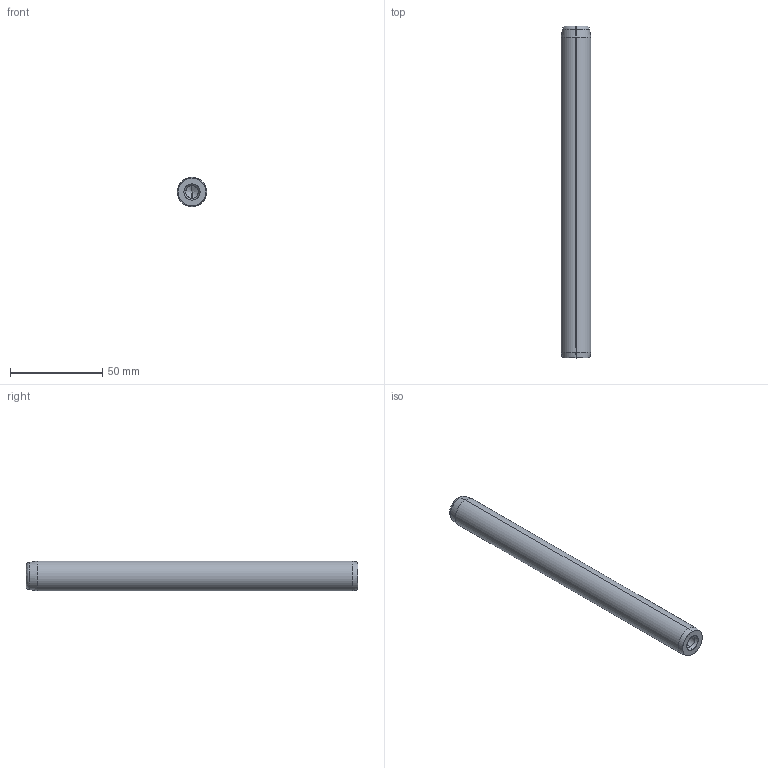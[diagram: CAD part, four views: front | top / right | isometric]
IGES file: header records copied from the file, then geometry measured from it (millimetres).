
Start section: SolidWorks IGES file using analytic representation for surfaces
Global section: file name: C:\Users\Dell\Desktop\deltakont\hatalýlar\D14\Ø16\D14_16180.IGS; native system: SolidWorks 2010; preprocessor: SolidWorks 2010; author: Dell; date: 111225.003809; units: metre
Bounding box: 16 x 180 x 16 mm (x, y, z)
Surface area: 10444 mm2 (no closed solid volume)
Topology: 0 solids, 0 shells, 22 faces, 208 edges, 204 vertices
Faces by surface type: revolution 18, bspline 4
